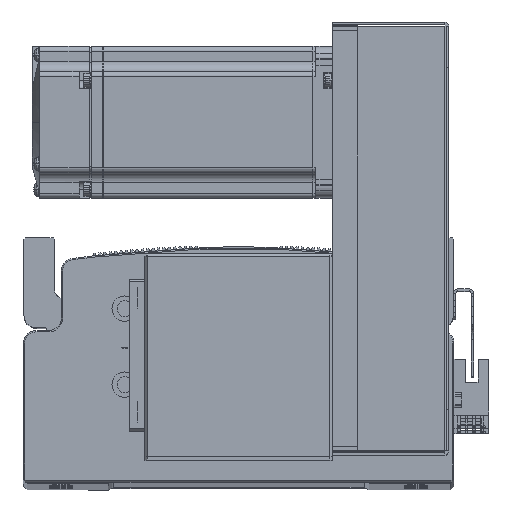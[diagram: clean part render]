
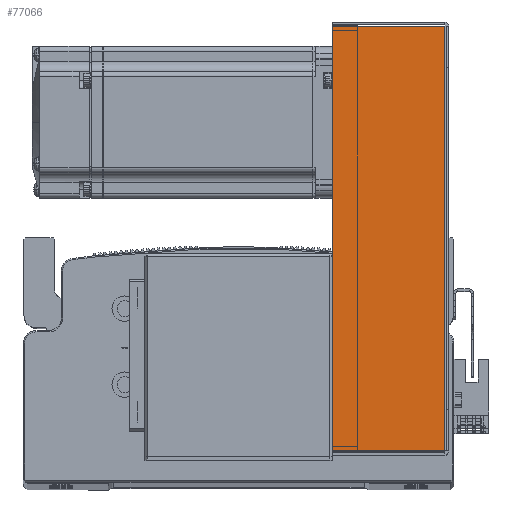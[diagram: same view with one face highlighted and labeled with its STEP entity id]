
A CAD part, top view. The second image highlights one B-rep face of the part: STEP entity #77066.
In plain terms, the highlighted planar face has unit normal (0, 0, 1).
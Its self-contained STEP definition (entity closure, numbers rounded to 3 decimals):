
#8777 = AXIS2_PLACEMENT_3D ( 'NONE', #12167, #12210, #12169 ) ;
#12164 = PLANE ( 'NONE',  #8777 ) ;
#12167 = CARTESIAN_POINT ( 'NONE',  ( 0., 0., 40.5 ) ) ;
#12169 = DIRECTION ( 'NONE',  ( -1., 0., 0. ) ) ;
#12210 = DIRECTION ( 'NONE',  ( 0., 0., -1. ) ) ;
#14837 = VERTEX_POINT ( 'NONE', #45621 ) ;
#14854 = VERTEX_POINT ( 'NONE', #45593 ) ;
#14880 = VERTEX_POINT ( 'NONE', #45582 ) ;
#14906 = VERTEX_POINT ( 'NONE', #45628 ) ;
#16452 = EDGE_CURVE ( 'NONE', #14854, #14880, #31140, .T. ) ;
#16471 = EDGE_CURVE ( 'NONE', #14906, #14880, #31323, .T. ) ;
#16504 = EDGE_CURVE ( 'NONE', #14837, #14854, #31367, .T. ) ;
#16514 = EDGE_CURVE ( 'NONE', #14837, #14906, #31484, .T. ) ;
#17685 = FACE_OUTER_BOUND ( 'NONE', #80598, .T. ) ;
#23494 = CARTESIAN_POINT ( 'NONE',  ( -83.793, 0., 40.5 ) ) ;
#23508 = DIRECTION ( 'NONE',  ( 0., 1., 0. ) ) ;
#23543 = CARTESIAN_POINT ( 'NONE',  ( -84.5, 45., 40.5 ) ) ;
#23544 = DIRECTION ( 'NONE',  ( -1., 0., 0. ) ) ;
#23602 = DIRECTION ( 'NONE',  ( -1., 0., 0. ) ) ;
#23609 = CARTESIAN_POINT ( 'NONE',  ( 0., 0.737, 40.5 ) ) ;
#23644 = DIRECTION ( 'NONE',  ( 0., 1., 0. ) ) ;
#23669 = CARTESIAN_POINT ( 'NONE',  ( 83.793, 0., 40.5 ) ) ;
#31140 = LINE ( 'NONE', #23494, #31177 ) ;
#31177 = VECTOR ( 'NONE', #23508, 1000. ) ;
#31261 = VECTOR ( 'NONE', #23544, 1000. ) ;
#31323 = LINE ( 'NONE', #23543, #31261 ) ;
#31349 = VECTOR ( 'NONE', #23602, 1000. ) ;
#31362 = VECTOR ( 'NONE', #23644, 1000. ) ;
#31367 = LINE ( 'NONE', #23609, #31349 ) ;
#31484 = LINE ( 'NONE', #23669, #31362 ) ;
#45582 = CARTESIAN_POINT ( 'NONE',  ( -83.793, 45., 40.5 ) ) ;
#45593 = CARTESIAN_POINT ( 'NONE',  ( -83.793, 0.737, 40.5 ) ) ;
#45621 = CARTESIAN_POINT ( 'NONE',  ( 83.793, 0.737, 40.5 ) ) ;
#45628 = CARTESIAN_POINT ( 'NONE',  ( 83.793, 45., 40.5 ) ) ;
#66837 = ORIENTED_EDGE ( 'NONE', *, *, #16504, .F. ) ;
#66841 = ORIENTED_EDGE ( 'NONE', *, *, #16514, .T. ) ;
#66858 = ORIENTED_EDGE ( 'NONE', *, *, #16471, .T. ) ;
#66872 = ORIENTED_EDGE ( 'NONE', *, *, #16452, .F. ) ;
#77066 = ADVANCED_FACE ( 'NONE', ( #17685 ), #12164, .F. ) ;
#80598 = EDGE_LOOP ( 'NONE', ( #66837, #66841, #66858, #66872 ) ) ;
